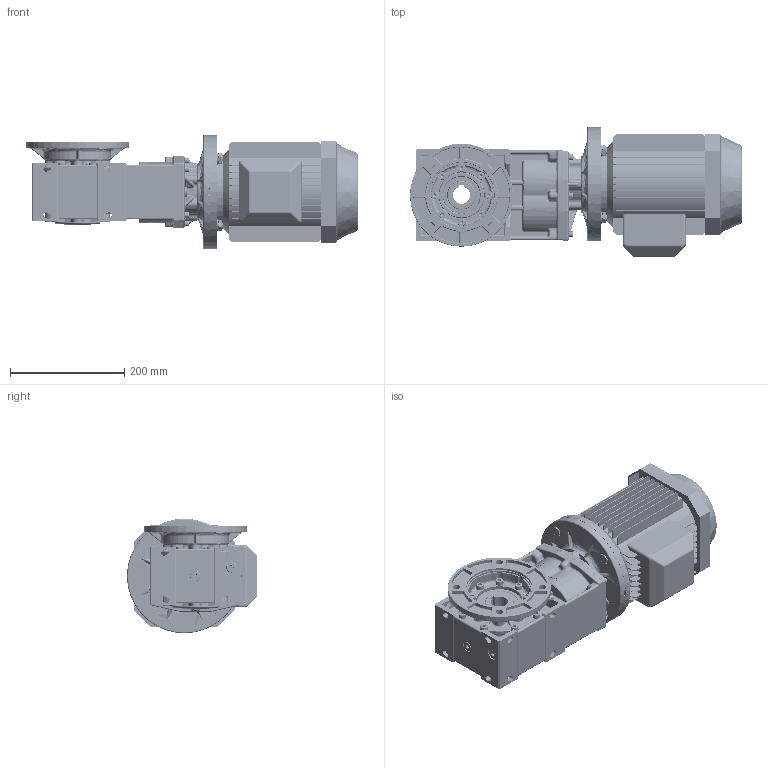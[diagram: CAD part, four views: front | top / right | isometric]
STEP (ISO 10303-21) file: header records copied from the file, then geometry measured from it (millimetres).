
FILE_DESCRIPTION((''),'2;1');
FILE_NAME('S:\Ghirri\3D\MO_RO20\Assiemi\MO20_2sFU-B5_90L.stp','2006-02-01T16:05:49',('Stefano'),(''),'Autodesk Inventor 10','Autodesk Inventor 10','');
FILE_SCHEMA(('AUTOMOTIVE_DESIGN { 1 0 10303 214 1 1 1 1 }'));
Length unit declared in the file: millimetre
Products named in the file (20): MO20_2sFU-B5_90L; Primario_MO20_2S; 3902001-A0; 3902003-A0; DIN 3760 AS AS - 50 x 65 x 8 - NBR; UNI 5931  M 8 x  20; 3902009-A0; 3902002-A0; Guarnizione 1_4 GAS; Tappo 1_4 GAS; UNI 5931  M 6 x  25; UNI 8839 A 6; FM-63-75-D=200; UNI 5739  M10 x 30; UNI 5589  M10; UNI 6593 11 x 21; motori B5 90L; FU_MV63
Assembly tree (62 placements, depth 3):
  MO20_2sFU-B5_90L
    Primario_MO20_2S
      3902001-A0
      3902003-A0
      DIN 3760 AS AS - 50 x 65 x 8 - NBR  x2
      UNI 5931  M 8 x  20  x8
      3902009-A0
      3902002-A0
      Guarnizione 1_4 GAS  x5
      Tappo 1_4 GAS  x5
      UNI 5931  M 6 x  25  x6
      UNI 8839 A 6  x6
    FM-63-75-D=200
      FM-63-75-D=200
      UNI 5739  M10 x 30  x4
      UNI 5589  M10  x4
      UNI 6593 11 x 21  x4
    motori B5 90L
    FU_MV63
      FU_MV63
      UNI 5931  M 8 x  20  x8
Bounding box: 580 x 227 x 200 mm (x, y, z)
Volume: 9392127.4 mm3; surface area: 1048108.5 mm2
Topology: 58 solids, 66 shells, 4338 faces, 10942 edges, 6758 vertices
Faces by surface type: plane 1535, cylinder 1279, bspline 1174, cone 207, torus 137, sphere 6
Full cylindrical faces by diameter (mm): 6 x6, 8 x16, 8.5 x8, 10 x10, 11 x4, 12 x4, 13 x26, 14.63 x4, 18 x5, 19 x5, 21 x4, 24 x1, 50 x3, 54.8 x2, 60 x1, 61 x2, 62 x2, 65 x4, 68 x2, 80 x3, 111 x1, 114.4 x1, 115 x1, 122.4 x1, 127 x1, 128 x3, 130 x3, 180 x1, 200 x2
Entity records: 189817 total; most frequent: CARTESIAN_POINT 102961, ORIENTED_EDGE 18660, DIRECTION 17148, EDGE_CURVE 9330, AXIS2_PLACEMENT_3D 6694, VERTEX_POINT 5928, EDGE_LOOP 4221, FACE_OUTER_BOUND 3770
